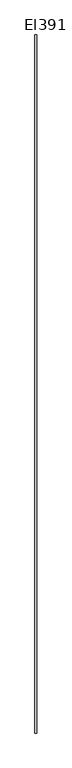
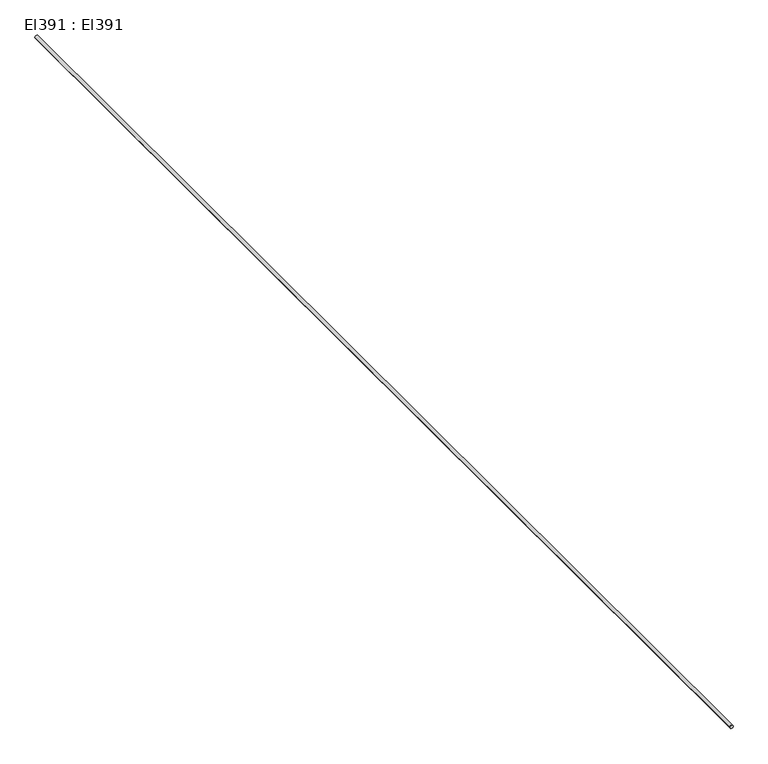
"""IFC4 building model written with IfcOpenShell, lengths in millimetres: cable carrier segment geometry, El391 : El391."""

from ifc_helpers import new_model, si_unit, point, frame, frame_2d, origin, place, context, project, spatial, circle_curve, trimmed, segment, composite_curve, outline, extrude, source, transform, mapped, element, save


def el391_el391_7c858157(model_context):
    return source(origin(), model_context, "Body", "SweptSolid", [
        extrude(outline(composite_curve([segment(trimmed(circle_curve(frame_2d((0.0, 11112.3)), 9.5), [point((0.0, 11102.8))], [point((0.0, 11121.8))], False, "CARTESIAN"), True, "CONTINUOUS"), segment(trimmed(circle_curve(frame_2d((0.0, 11112.3)), 9.5), [point((0.0, 11121.8))], [point((0.0, 11102.8))], False, "CARTESIAN"), True, "CONTINUOUS")], self_intersect=False)), frame((0.0, 1403.65, 0.0), z_axis=(0.0, 1.0, 0.0), x_axis=(0.0, 0.0, 1.0)), (0.0, 0.0, 1.0), 6706.35),
    ])


if __name__ == "__main__":
    model = new_model("IFC4")
    model_context = context("Model", 3, world=origin())
    ifc_project = project(units=[si_unit("LENGTHUNIT", "METRE", prefix="MILLI")], contexts=[model_context])
    site = spatial("IfcSite", under=ifc_project)
    building = spatial("IfcBuilding", under=site)
    placement = place(None, origin())
    el391_el391_shape = el391_el391_7c858157(model_context)
    element("IfcCableCarrierSegment", 1, ObjectType="El391 : El391", at=placement, inside=building, context=model_context, shape_type="MappedRepresentation", body=[
        mapped(el391_el391_shape, transform((0.0, 0.0, 0.0), x_axis=(1.0, 0.0, 0.0), y_axis=(0.0, 1.0, 0.0), z_axis=(0.0, 0.0, 1.0))),
    ])
    save(model, "model.ifc")
